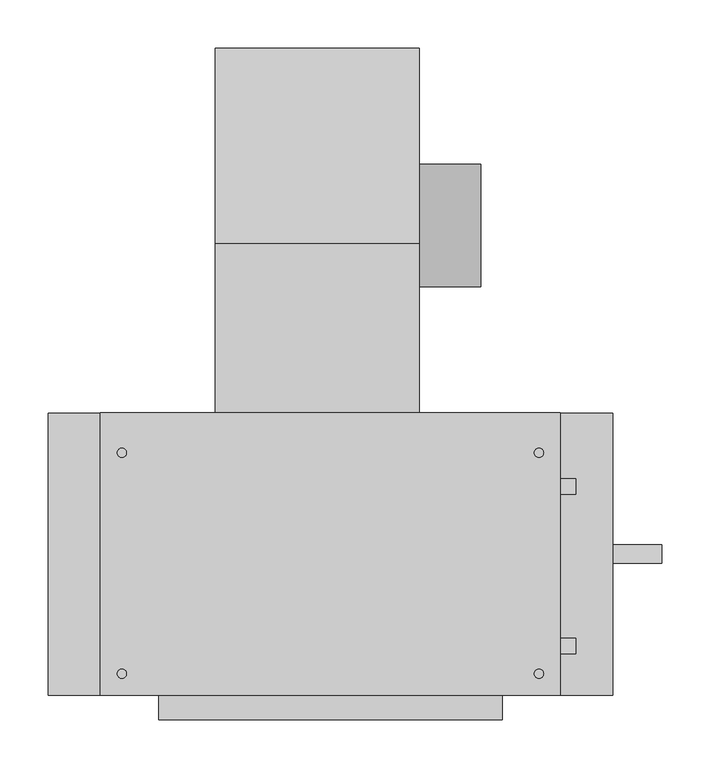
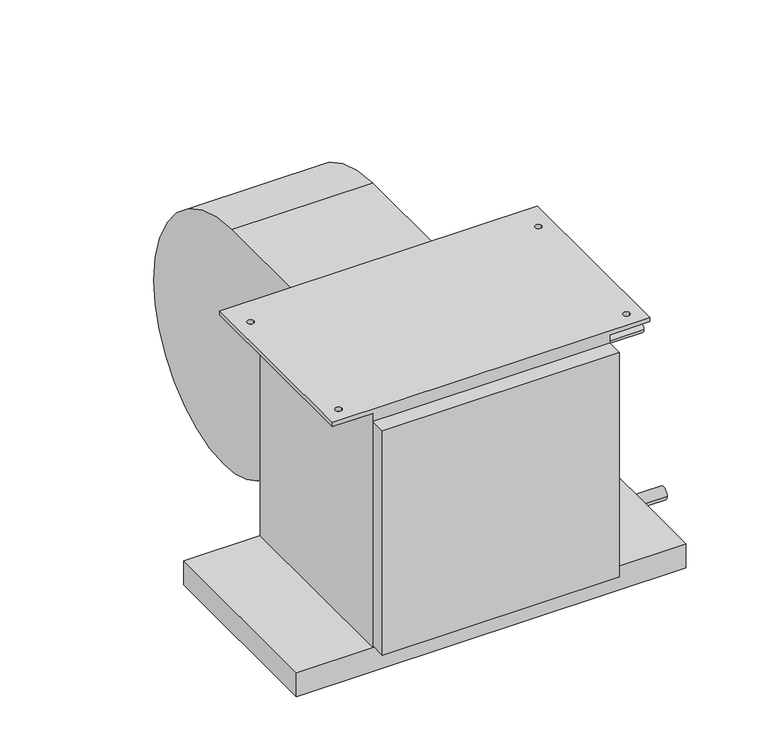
"""IFC4 building model written with IfcOpenShell, lengths in millimetres: proxy geometry, Concealed_High_Capacity_Horizontal_Fan_Coil_Unit_-_42DAA_-_CARRIER_-_2-Pipe_Cool-EHeat_RH_2022 : Size 06 - 277v/60Hz/1Ph - 6 Row 4.0kW."""

from ifc_helpers import new_model, si_unit, point, frame, frame_2d, origin, place, context, project, spatial, polyline, circle_curve, trimmed, segment, composite_curve, outline, extrude, source, transform, mapped, element, save
from ifc_brep_helpers import plane_surface, cylinder_surface, revolved_surface, advanced_brep


def mechanical_equipment_b336f197(model_context):
    return source(origin(), model_context, "Body", "SolidModel", [
        extrude(outline(composite_curve([segment(trimmed(circle_curve(frame_2d((102.0007598, -206.8897468)), 63.5), [point((165.5007598, -206.8897468))], [point((38.5007598, -206.8897468))], False, "CARTESIAN"), True, "CONTINUOUS"), segment(trimmed(circle_curve(frame_2d((102.0007598, -206.8897468)), 63.5), [point((38.5007598, -206.8897468))], [point((165.5007598, -206.8897468))], False, "CARTESIAN"), True, "CONTINUOUS")], self_intersect=False)), frame((244.475, 0.0, 0.0), z_axis=(1.0, 0.0, 0.0), x_axis=(0.0, 1.0, 0.0)), (0.0, 0.0, 1.0), 63.5),
        advanced_brep(
        [(33.401, 285.5155957, -222.029602), (33.401, 104.6226, -403.64664), (33.401, -50.9016, -277.10638), (33.401, -92.075, -277.10638), (33.401, -92.075, -19.05), (33.401, 83.0080093, -19.05), (244.475, 285.5155957, -222.029602), (244.475, 83.0080093, -19.05), (244.475, -92.075, -19.05), (244.475, -92.075, -277.10638), (244.475, -50.9016, -277.10638), (244.475, 104.622599, -403.6457839)],
        [
            (0, 1, circle_curve(frame((33.401, 104.44226, -222.57258), z_axis=(-1.0, 0.0, 0.0), x_axis=(0.0, -1.0, 0.0)), 181.0741498)),
            (1, 2, circle_curve(frame((33.401, 104.44226, -245.02364), z_axis=(-1.0, 0.0, 0.0), x_axis=(0.0, -1.0, 0.0)), 158.6222464)),
            (2, 3),
            (3, 4),
            (4, 5),
            (5, 0, circle_curve(frame((33.401, 81.9912, -222.57258), z_axis=(-1.0, 0.0, 0.0), x_axis=(0.0, -1.0, 0.0)), 203.52512)),
            (6, 7, circle_curve(frame((244.475, 81.9912, -222.57258), z_axis=(1.0, 0.0, 0.0), x_axis=(0.0, -1.0, 0.0)), 203.52512)),
            (7, 8),
            (8, 9),
            (9, 10),
            (10, 11, circle_curve(frame((244.475, 104.44226, -245.02364), z_axis=(1.0, 0.0, 0.0), x_axis=(0.0, -1.0, 0.0)), 158.6222464)),
            (11, 6, circle_curve(frame((244.475, 104.44226, -222.57258), z_axis=(1.0, 0.0, 0.0), x_axis=(0.0, -1.0, 0.0)), 181.0741498)),
            (0, 6),
            (11, 1),
            (10, 2),
            (9, 3),
            (8, 4),
            (7, 5),
        ],
        [
            plane_surface(frame((33.401, -76.6318898, -222.57258), z_axis=(-1.0, 0.0, 0.0), x_axis=(0.0, 0.0, 1.0))),
            plane_surface(frame((244.475, -76.6318898, -222.57258), z_axis=(1.0, 0.0, 0.0), x_axis=(0.0, 0.0, -1.0))),
            cylinder_surface(frame((244.475, 104.44226, -222.57258), z_axis=(-1.0, 0.0, 0.0), x_axis=(0.0, -1.0, 0.0)), 181.0741498),
            cylinder_surface(frame((244.475, 104.44226, -245.02364), z_axis=(-1.0, 0.0, 0.0), x_axis=(0.0, -1.0, 0.0)), 158.6222464),
            plane_surface(frame((33.401, -50.9016, -277.10638), z_axis=(0.0, 0.0, -1.0), x_axis=(1.0, 0.0, 0.0))),
            plane_surface(frame((33.401, -92.075, -277.10638), z_axis=(0.0, -1.0, 0.0), x_axis=(1.0, 0.0, 0.0))),
            plane_surface(frame((33.401, -92.075, -19.05), z_axis=(0.0, 0.0, 1.0), x_axis=(1.0, 0.0, 0.0))),
            cylinder_surface(frame((244.475, 81.9912, -222.57258), z_axis=(-1.0, 0.0, 0.0), x_axis=(0.0, -1.0, 0.0)), 203.52512),
        ],
        [
            (0, [[1, 2, 3, 4, 5, 6]]),
            (1, [[7, 8, 9, 10, 11, 12]]),
            (2, [[-1, 13, -12, 14]]),
            (3, [[-2, -14, -11, 15]]),
            (4, [[-3, -15, -10, 16]]),
            (5, [[-4, -16, -9, 17]]),
            (6, [[-5, -17, -8, 18]]),
            (7, [[-6, -18, -7, -13]]),
        ],
    ),
        advanced_brep(
        [(330.2, -92.075, -377.825), (330.2, -384.175, -377.825), (-25.4, -384.175, -377.825), (-25.4, -92.075, -377.825), (-25.4, -384.175, -6.35), (-25.4, -92.075, -6.35), (330.2, -92.075, -6.35), (330.2, -384.175, -6.35), (390.525, -92.075, -6.35), (390.525, -384.175, -6.35), (363.5375, -133.35, -6.35), (373.0625, -133.35, -6.35), (363.5375, -361.95, -6.35), (373.0625, -361.95, -6.35), (-85.725, -92.075, -6.35), (-85.725, -384.175, -6.35), (-68.2625, -133.35, -6.35), (-58.7375, -133.35, -6.35), (-68.2625, -361.95, -6.35), (-58.7375, -361.95, -6.35), (390.525, -384.175, 0.0), (390.525, -92.075, 0.0), (-85.725, -92.075, 0.0), (-85.725, -384.175, 0.0), (-58.7375, -133.35, 0.0), (-68.2625, -133.35, 0.0), (-58.7375, -361.95, 0.0), (-68.2625, -361.95, 0.0), (373.0625, -133.35, 0.0), (363.5375, -133.35, 0.0), (373.0625, -361.95, 0.0), (363.5375, -361.95, 0.0)],
        [
            (0, 1),
            (1, 2),
            (2, 3),
            (3, 0),
            (2, 4),
            (4, 5),
            (5, 3),
            (0, 6),
            (6, 7),
            (7, 1),
            (8, 9),
            (9, 7),
            (6, 8),
            (10, 11, circle_curve(frame((368.3, -133.35, -6.35), z_axis=(0.0, 0.0, 1.0), x_axis=(1.0, 0.0, 0.0)), 4.7625)),
            (11, 10, circle_curve(frame((368.3, -133.35, -6.35), z_axis=(0.0, 0.0, 1.0), x_axis=(1.0, 0.0, 0.0)), 4.7625)),
            (12, 13, circle_curve(frame((368.3, -361.95, -6.35), z_axis=(0.0, 0.0, 1.0), x_axis=(1.0, 0.0, 0.0)), 4.7625)),
            (13, 12, circle_curve(frame((368.3, -361.95, -6.35), z_axis=(0.0, 0.0, 1.0), x_axis=(1.0, 0.0, 0.0)), 4.7625)),
            (14, 5),
            (4, 15),
            (15, 14),
            (16, 17, circle_curve(frame((-63.5, -133.35, -6.35), z_axis=(0.0, 0.0, 1.0), x_axis=(1.0, 0.0, 0.0)), 4.7625)),
            (17, 16, circle_curve(frame((-63.5, -133.35, -6.35), z_axis=(0.0, 0.0, 1.0), x_axis=(1.0, 0.0, 0.0)), 4.7625)),
            (18, 19, circle_curve(frame((-63.5, -361.95, -6.35), z_axis=(0.0, 0.0, 1.0), x_axis=(1.0, 0.0, 0.0)), 4.7625)),
            (19, 18, circle_curve(frame((-63.5, -361.95, -6.35), z_axis=(0.0, 0.0, 1.0), x_axis=(1.0, 0.0, 0.0)), 4.7625)),
            (20, 21),
            (21, 22),
            (22, 23),
            (23, 20),
            (24, 25, circle_curve(frame((-63.5, -133.35, 0.0), z_axis=(0.0, 0.0, -1.0), x_axis=(1.0, 0.0, 0.0)), 4.7625)),
            (25, 24, circle_curve(frame((-63.5, -133.35, 0.0), z_axis=(0.0, 0.0, -1.0), x_axis=(1.0, 0.0, 0.0)), 4.7625)),
            (26, 27, circle_curve(frame((-63.5, -361.95, 0.0), z_axis=(0.0, 0.0, -1.0), x_axis=(1.0, 0.0, 0.0)), 4.7625)),
            (27, 26, circle_curve(frame((-63.5, -361.95, 0.0), z_axis=(0.0, 0.0, -1.0), x_axis=(1.0, 0.0, 0.0)), 4.7625)),
            (28, 29, circle_curve(frame((368.3, -133.35, 0.0), z_axis=(0.0, 0.0, -1.0), x_axis=(1.0, 0.0, 0.0)), 4.7625)),
            (29, 28, circle_curve(frame((368.3, -133.35, 0.0), z_axis=(0.0, 0.0, -1.0), x_axis=(1.0, 0.0, 0.0)), 4.7625)),
            (30, 31, circle_curve(frame((368.3, -361.95, 0.0), z_axis=(0.0, 0.0, -1.0), x_axis=(1.0, 0.0, 0.0)), 4.7625)),
            (31, 30, circle_curve(frame((368.3, -361.95, 0.0), z_axis=(0.0, 0.0, -1.0), x_axis=(1.0, 0.0, 0.0)), 4.7625)),
            (14, 22),
            (21, 8),
            (9, 20),
            (23, 15),
            (24, 17),
            (16, 25),
            (26, 19),
            (18, 27),
            (28, 11),
            (10, 29),
            (30, 13),
            (12, 31),
        ],
        [
            plane_surface(frame((-25.4, -92.075, -377.825), z_axis=(0.0, 0.0, -1.0), x_axis=(1.0, 0.0, 0.0))),
            plane_surface(frame((-25.4, -92.075, 0.0), z_axis=(-1.0, 0.0, 0.0), x_axis=(0.0, 0.0, -1.0))),
            plane_surface(frame((330.2, -384.175, 0.0), z_axis=(1.0, 0.0, 0.0), x_axis=(0.0, 0.0, -1.0))),
            plane_surface(frame((330.2, -92.075, -6.35), z_axis=(0.0, 0.0, -1.0), x_axis=(1.0, 0.0, 0.0))),
            plane_surface(frame((330.2, -92.075, 0.0), z_axis=(0.0, 0.0, 1.0), x_axis=(-1.0, 0.0, 0.0))),
            plane_surface(frame((390.525, -92.075, 0.0), z_axis=(0.0, 1.0, 0.0), x_axis=(0.0, 0.0, -1.0))),
            plane_surface(frame((330.2, -384.175, 0.0), z_axis=(0.0, -1.0, 0.0), x_axis=(0.0, 0.0, -1.0))),
            plane_surface(frame((390.525, -384.175, 0.0), z_axis=(1.0, 0.0, 0.0), x_axis=(0.0, 0.0, -1.0))),
            plane_surface(frame((-85.725, -92.075, 0.0), z_axis=(-1.0, 0.0, 0.0), x_axis=(0.0, 0.0, -1.0))),
            revolved_surface(polyline([(-58.7375, -133.35, 0.0), (-58.7375, -133.35, -6.35)]), (-63.5, -133.35, -6.35), (0.0, 0.0, 1.0)),
            revolved_surface(polyline([(-58.7375, -361.95, 0.0), (-58.7375, -361.95, -6.35)]), (-63.5, -361.95, 0.0), (0.0, 0.0, 1.0)),
            revolved_surface(polyline([(373.0625, -133.35, 0.0), (373.0625, -133.35, -6.35)]), (368.3, -133.35, 0.0), (0.0, 0.0, 1.0)),
            revolved_surface(polyline([(373.0625, -361.95, 0.0), (373.0625, -361.95, -6.35)]), (368.3, -361.95, 0.0), (0.0, 0.0, 1.0)),
        ],
        [
            (0, [[1, 2, 3, 4]]),
            (1, [[-3, 5, 6, 7]]),
            (2, [[-1, 8, 9, 10]]),
            (3, [[11, 12, -9, 13], [14, 15], [16, 17]]),
            (3, [[18, -6, 19, 20], [21, 22], [23, 24]]),
            (4, [[25, 26, 27, 28], [29, 30], [31, 32], [33, 34], [35, 36]]),
            (5, [[-13, -8, -4, -7, -18, 37, -26, 38]]),
            (6, [[-12, 39, -28, 40, -19, -5, -2, -10]]),
            (7, [[-11, -38, -25, -39]]),
            (8, [[-20, -40, -27, -37]]),
            (9, [[41, -21, 42, -29]]),
            (9, [[-41, -30, -42, -22]]),
            (10, [[43, -23, 44, -31]]),
            (10, [[-43, -32, -44, -24]]),
            (11, [[45, -14, 46, -33]]),
            (11, [[-45, -34, -46, -15]]),
            (12, [[47, -16, 48, -35]]),
            (12, [[-47, -36, -48, -17]]),
        ],
    ),
        extrude(outline(composite_curve([segment(trimmed(circle_curve(frame_2d((-238.125, -403.225)), 9.525), [point((-228.6, -403.225))], [point((-247.65, -403.225))], False, "CARTESIAN"), True, "CONTINUOUS"), segment(trimmed(circle_curve(frame_2d((-238.125, -403.225)), 9.525), [point((-247.65, -403.225))], [point((-228.6, -403.225))], False, "CARTESIAN"), True, "CONTINUOUS")], self_intersect=False)), frame((444.5, 0.0, 0.0), z_axis=(1.0, 0.0, 0.0), x_axis=(0.0, 1.0, 0.0)), (0.0, 0.0, 1.0), 50.8),
        extrude(outline(composite_curve([segment(trimmed(circle_curve(frame_2d((-333.375, -50.8)), 7.9375), [point((-325.4375, -50.8))], [point((-341.3125, -50.8))], False, "CARTESIAN"), True, "CONTINUOUS"), segment(trimmed(circle_curve(frame_2d((-333.375, -50.8)), 7.9375), [point((-341.3125, -50.8))], [point((-325.4375, -50.8))], False, "CARTESIAN"), True, "CONTINUOUS")], self_intersect=False)), frame((330.2, 0.0, 0.0), z_axis=(1.0, 0.0, 0.0), x_axis=(0.0, 1.0, 0.0)), (0.0, 0.0, 1.0), 76.2),
        extrude(outline(composite_curve([segment(trimmed(circle_curve(frame_2d((-168.275, -327.025)), 7.9375), [point((-160.3375, -327.025))], [point((-176.2125, -327.025))], False, "CARTESIAN"), True, "CONTINUOUS"), segment(trimmed(circle_curve(frame_2d((-168.275, -327.025)), 7.9375), [point((-176.2125, -327.025))], [point((-160.3375, -327.025))], False, "CARTESIAN"), True, "CONTINUOUS")], self_intersect=False)), frame((330.2, 0.0, 0.0), z_axis=(1.0, 0.0, 0.0), x_axis=(0.0, 1.0, 0.0)), (0.0, 0.0, 1.0), 76.2),
        extrude(outline(polyline([(330.2, -409.575), (-25.4, -409.575), (-25.4, -384.175), (330.2, -384.175), (330.2, -409.575)])), frame((0.0, 0.0, -374.65), z_axis=(0.0, 0.0, 1.0), x_axis=(1.0, 0.0, 0.0)), (0.0, 0.0, 1.0), 355.6),
        extrude(outline(polyline([(444.5, -92.075), (444.5, -384.175), (-139.7, -384.175), (-139.7, -92.075), (444.5, -92.075)])), frame((0.0, 0.0, -415.925), z_axis=(0.0, 0.0, 1.0), x_axis=(1.0, 0.0, 0.0)), (0.0, 0.0, 1.0), 38.1),
    ])


if __name__ == "__main__":
    model = new_model("IFC4")
    model_context = context("Model", 3, world=origin())
    ifc_project = project(units=[si_unit("LENGTHUNIT", "METRE", prefix="MILLI")], contexts=[model_context])
    site = spatial("IfcSite", under=ifc_project)
    building = spatial("IfcBuilding", under=site)
    placement = place(None, origin())
    mechanical_equipment_shape = mechanical_equipment_b336f197(model_context)
    element("IfcBuildingElementProxy", 1, Name="Concealed_High_Capacity_Horizontal_Fan_Coil_Unit_-_42DAA_-_CARRIER_-_2-Pipe_Cool-EHeat_RH_2022 : Size 06 - 277v/60Hz/1Ph - 6 Row 4.0kW", ObjectType="Concealed_High_Capacity_Horizontal_Fan_Coil_Unit_-_42DAA_-_CARRIER_-_2-Pipe_Cool-EHeat_RH_2022 : Size 06 - 277v/60Hz/1Ph - 6 Row 4.0kW", at=placement, inside=building, context=model_context, shape_type="MappedRepresentation", body=[
        mapped(mechanical_equipment_shape, transform((0.0, 0.0, 0.0), x_axis=(1.0, 0.0, 0.0), y_axis=(0.0, 1.0, 0.0), z_axis=(0.0, 0.0, 1.0))),
    ])
    save(model, "model.ifc")
